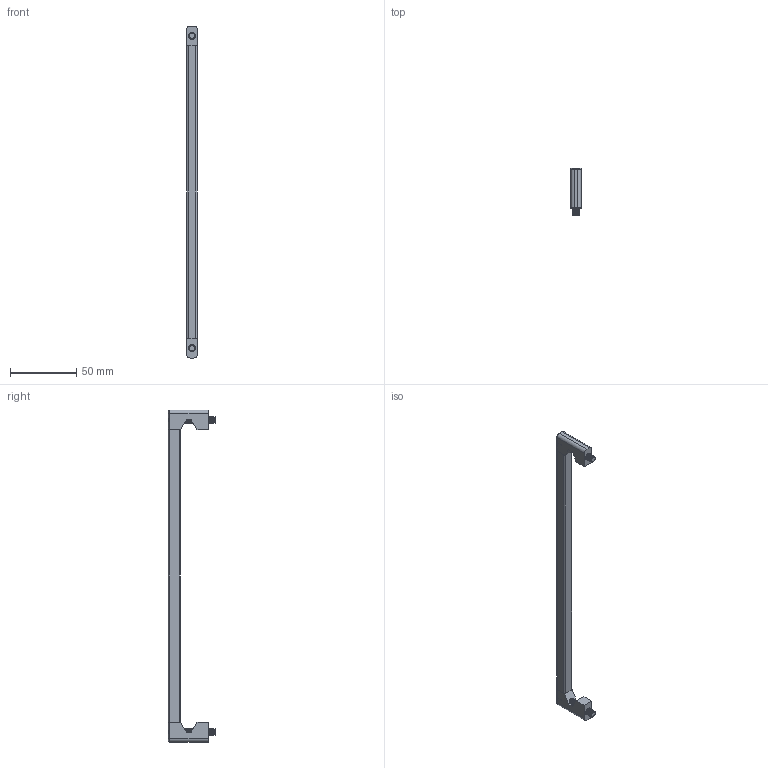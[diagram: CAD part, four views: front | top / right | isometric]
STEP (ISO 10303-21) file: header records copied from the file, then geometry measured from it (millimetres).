
FILE_DESCRIPTION (( 'STEP AP203' ), '1' );
FILE_NAME ('79350.W0435-1.step', '2018-04-28T14:54:38', ( '' ), ( '' ), 'SwSTEP 2.0', 'SolidWorks 2017', '' );
FILE_SCHEMA (( 'CONFIG_CONTROL_DESIGN' ));
Length unit declared in the file: millimetre
Products named in the file (4): 79350.W0435-1; SHCS_1_M5x45; Part3_79350.W0435-1; Part2
Assembly tree (5 placements, depth 2):
  79350.W0435-1
    Part3_79350.W0435-1
    Part2  x2
    SHCS_1_M5x45  x2
Bounding box: 8 x 35.5 x 250 mm (x, y, z)
Volume: 19939.3 mm3; surface area: 15131.5 mm2
Topology: 5 solids, 5 shells, 388 faces, 842 edges, 462 vertices
Faces by surface type: cone 264, plane 76, cylinder 44, torus 4
Entity records: 5931 total; most frequent: DIRECTION 1047, CARTESIAN_POINT 931, ORIENTED_EDGE 886, EDGE_CURVE 443, AXIS2_PLACEMENT_3D 399, LINE 249, VECTOR 249, VERTEX_POINT 247
